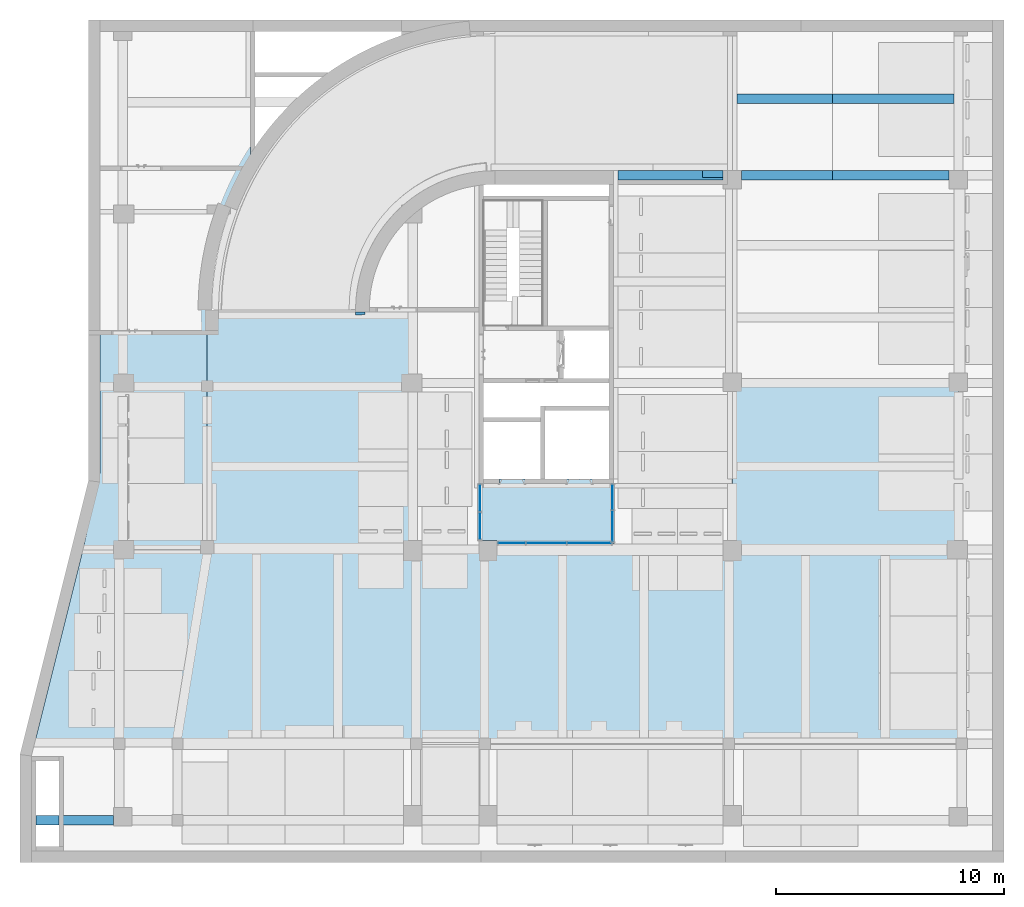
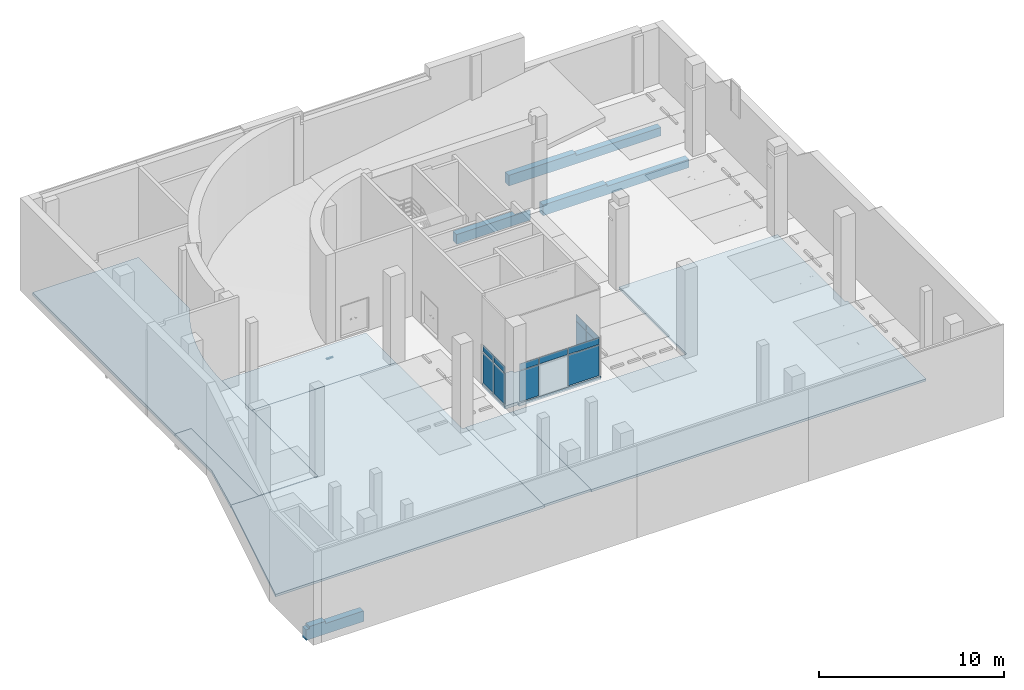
# One storey, part 6 of 29: 13 plates, 7 slabs, 5 beams, 3 elements without a shape of their own.
"""IFC2X3 building model written with IfcOpenShell, lengths in millimetres."""

from ifc_helpers import new_model, entity, si_unit, converted_unit, derived_unit, direction, frame, frame_2d, origin, origin_2d_with_axis, place, context, subcontext, project, spatial, polyline, circle_curve, parameter, trimmed, segment, composite_curve, rectangle, outline, extrude, faceted_brep, source, transform, mapped, material, layer, layer_set, layer_usage, type_object, type_shapes, element, aggregate, save


model = new_model("IFC2X3")

# Units and contexts
model_context = context("Model", 3, precision=0.01, world=origin(), true_north=direction((6.123031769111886e-17, 1.0)))
body_context = subcontext(model_context, "Body", "Model", "MODEL_VIEW")
ifc_project = project(units=[si_unit("LENGTHUNIT", "METRE", prefix="MILLI"), si_unit("AREAUNIT", "SQUARE_METRE"), si_unit("VOLUMEUNIT", "CUBIC_METRE"), converted_unit("PLANEANGLEUNIT", "DEGREE", entity("IfcRatioMeasure", 0.017453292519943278), si_unit("PLANEANGLEUNIT", "RADIAN"), dimensions=[0, 0, 0, 0, 0, 0, 0]), si_unit("MASSUNIT", "GRAM", prefix="KILO"), derived_unit("MASSDENSITYUNIT", [(si_unit("MASSUNIT", "GRAM", prefix="KILO"), 1), (si_unit("LENGTHUNIT", "METRE"), -3)]), derived_unit("MOMENTOFINERTIAUNIT", [(si_unit("LENGTHUNIT", "METRE"), 4)]), si_unit("TIMEUNIT", "SECOND"), si_unit("FREQUENCYUNIT", "HERTZ"), si_unit("THERMODYNAMICTEMPERATUREUNIT", "DEGREE_CELSIUS"), derived_unit("THERMALTRANSMITTANCEUNIT", [(si_unit("MASSUNIT", "GRAM", prefix="KILO"), 1), (si_unit("THERMODYNAMICTEMPERATUREUNIT", "KELVIN"), -1), (si_unit("TIMEUNIT", "SECOND"), -3)]), derived_unit("VOLUMETRICFLOWRATEUNIT", [(si_unit("LENGTHUNIT", "METRE"), 3), (si_unit("TIMEUNIT", "SECOND"), -1)]), derived_unit("MASSFLOWRATEUNIT", [(si_unit("MASSUNIT", "GRAM", prefix="KILO"), 1), (si_unit("TIMEUNIT", "SECOND"), -1)]), derived_unit("ROTATIONALFREQUENCYUNIT", [(si_unit("TIMEUNIT", "SECOND"), -1)]), si_unit("ELECTRICCURRENTUNIT", "AMPERE"), si_unit("ELECTRICVOLTAGEUNIT", "VOLT"), si_unit("POWERUNIT", "WATT"), si_unit("FORCEUNIT", "NEWTON", prefix="KILO"), si_unit("ILLUMINANCEUNIT", "LUX"), si_unit("LUMINOUSFLUXUNIT", "LUMEN"), si_unit("LUMINOUSINTENSITYUNIT", "CANDELA"), derived_unit("USERDEFINED", [(si_unit("MASSUNIT", "GRAM", prefix="KILO"), -1), (si_unit("LENGTHUNIT", "METRE"), -2), (si_unit("TIMEUNIT", "SECOND"), 3), (si_unit("LUMINOUSFLUXUNIT", "LUMEN"), 1)]), derived_unit("SOUNDPOWERUNIT", [(si_unit("MASSUNIT", "GRAM", prefix="KILO"), 1), (si_unit("LENGTHUNIT", "METRE"), 2), (si_unit("TIMEUNIT", "SECOND"), -3)]), derived_unit("SOUNDPRESSUREUNIT", [(si_unit("MASSUNIT", "GRAM", prefix="KILO"), 1), (si_unit("LENGTHUNIT", "METRE"), -1), (si_unit("TIMEUNIT", "SECOND"), -2)]), derived_unit("LINEARVELOCITYUNIT", [(si_unit("LENGTHUNIT", "METRE"), 1), (si_unit("TIMEUNIT", "SECOND"), -1)]), si_unit("PRESSUREUNIT", "PASCAL"), derived_unit("USERDEFINED", [(si_unit("LENGTHUNIT", "METRE"), -2), (si_unit("MASSUNIT", "GRAM", prefix="KILO"), 1), (si_unit("TIMEUNIT", "SECOND"), -2)]), derived_unit("LINEARFORCEUNIT", [(si_unit("MASSUNIT", "GRAM", prefix="KILO"), 1), (si_unit("LENGTHUNIT", "METRE"), 1), (si_unit("TIMEUNIT", "SECOND"), -2), (si_unit("LENGTHUNIT", "METRE"), -1)]), derived_unit("PLANARFORCEUNIT", [(si_unit("MASSUNIT", "GRAM", prefix="KILO"), 1), (si_unit("LENGTHUNIT", "METRE"), 1), (si_unit("TIMEUNIT", "SECOND"), -2), (si_unit("LENGTHUNIT", "METRE"), -2)])], contexts=[model_context])

# Site, building, storey
site_placement = place(None, frame((-14167.972527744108, -657.2125860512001, 0.0)))
site = spatial("IfcSite", under=ifc_project, at=site_placement, Name="Default", CompositionType="ELEMENT")
building_placement = place(site_placement, origin())
building = spatial("IfcBuilding", under=site, at=building_placement, Name="Sample Building", CompositionType="ELEMENT")
storey_placement = place(building_placement, frame((0.0, 0.0, -6100.0)))
storey = spatial("IfcBuildingStorey", under=building, at=storey_placement, Name="지하1층", CompositionType="ELEMENT", Elevation=-6099.999999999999)

# Beams
ifc_material_1 = material(Name="KBIMS-콘크리트")
beam_type_1 = type_object("IfcBeamType", Name="BM111-철근콘크리트구조 보:BM110-철근 콘크리트구조 보_400 x 850_B1-1G3", PredefinedType="NOTDEFINED")
beam_1_placement = place(storey_placement, frame((10467.972491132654, 607.2126041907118, -850.0)))
element("IfcBeam", 1, at=beam_1_placement, inside=storey, type_object=beam_type_1, material=ifc_material_1, Name="BM111-철근콘크리트구조 보:BM110-철근 콘크리트구조 보_400 x 850_B1-1G3", ObjectType="BM111-철근콘크리트구조 보:BM110-철근 콘크리트구조 보_400 x 850_B1-1G3", context=body_context, shape_type="Brep", body=[
    faceted_brep([(1209.9999267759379, 0.0, 850.0), (1209.9999267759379, 400.0, 850.0), (199.99992677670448, 400.0, 850.0), (199.99992677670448, 0.0, 850.0), (3599.9826140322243, 0.0, 0.0), (3599.9826140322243, 0.0, 700.0), (1209.9999267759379, 0.0, 700.0), (199.99992677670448, 0.0, 700.0), (0.0, 0.0, 700.0), (0.0, 0.0, 0.0), (3599.9826140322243, 400.0, 0.0), (0.0, 400.0, 0.0), (3599.9826140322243, 400.0, 700.0), (0.0, 400.0, 700.0), (199.99992677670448, 400.0, 700.0), (1209.9999267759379, 400.0, 700.0)], [[[0, 1, 2, 3]], [[4, 5, 6, 0, 3, 7, 8, 9]], [[10, 4, 9, 11]], [[12, 10, 11, 13, 14, 2, 1, 15]], [[4, 10, 12, 5]], [[7, 14, 13, 8]], [[1, 0, 6, 15]], [[14, 7, 3, 2]], [[6, 5, 12, 15]], [[9, 8, 13, 11]]]),
])
beam_type_2 = type_object("IfcBeamType", Name="BM111-철근콘크리트구조 보:BM110-철근 콘크리트구조 보_400 x 850_B1-1G1", PredefinedType="NOTDEFINED")
beam_2_placement = place(storey_placement, frame((41567.955141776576, 28857.212307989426, -850.0)))
element("IfcBeam", 2, at=beam_2_placement, inside=storey, type_object=beam_type_2, material=ifc_material_1, Name="BM111-철근콘크리트구조 보:BM110-철근 콘크리트구조 보_400 x 850_B1-1G1", ObjectType="BM111-철근콘크리트구조 보:BM110-철근 콘크리트구조 보_400 x 850_B1-1G1", context=body_context, shape_type="Brep", body=[
    faceted_brep([(9100.0, 400.0003090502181, 0.0), (0.0, 400.0003090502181, 0.0), (0.0, 400.0003090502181, 700.0), (3981.6171671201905, 400.0003090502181, 700.0), (3981.6171671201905, 400.0003090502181, 550.0), (9100.0, 400.0003090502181, 550.0), (0.0, 0.0003090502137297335, 0.0), (9100.0, 0.0003090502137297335, 0.0), (9100.0, 0.0003090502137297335, 550.0), (3981.6171671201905, 0.0003090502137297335, 550.0), (3981.6171671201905, 0.0003090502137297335, 700.0), (0.0, 0.0003090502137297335, 700.0), (3981.6171671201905, 0.0, 550.0)], [[[0, 1, 2, 3, 4, 5]], [[6, 1, 0, 7]], [[6, 7, 8, 9, 10, 11]], [[1, 6, 11, 2]], [[7, 0, 5, 8]], [[11, 10, 3, 2]], [[4, 9, 8, 5]], [[12, 4, 3, 10]]]),
])
beam_type_3 = type_object("IfcBeamType", Name="BM111-철근콘크리트구조 보:BM110-철근 콘크리트구조 보_400 x 850_B1-1B1", PredefinedType="BEAM", material=ifc_material_1)
beam_3_placement = place(storey_placement, frame((41367.96296519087, 32207.21261704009, -850.0)))
element("IfcBeam", 3, at=beam_3_placement, inside=storey, type_object=beam_type_3, material=ifc_material_1, Name="BM111-철근콘크리트구조 보:BM110-철근 콘크리트구조 보_400 x 850_B1-1B1", ObjectType="BM111-철근콘크리트구조 보:BM110-철근 콘크리트구조 보_400 x 850_B1-1B1", context=body_context, shape_type="Brep", body=[
    faceted_brep([(9500.0, 400.0, 0.0), (0.0, 400.0, 0.0), (0.0, 400.0, 700.0), (4181.609343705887, 400.0, 700.0), (4181.609343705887, 400.0, 550.0), (9500.0, 400.0, 550.0), (9500.0, 0.0, 0.0), (0.0, 0.0, 0.0), (9500.0, 0.0, 550.0), (4181.609343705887, 0.0, 550.0), (4181.609343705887, 0.0, 700.0), (0.0, 0.0, 700.0)], [[[0, 1, 2, 3, 4, 5]], [[0, 6, 7, 1]], [[7, 6, 8, 9, 10, 11]], [[6, 0, 5, 8]], [[1, 7, 11, 2]], [[4, 9, 8, 5]], [[9, 4, 3, 10]], [[3, 2, 11, 10]]]),
])
beam_type_4 = type_object("IfcBeamType", Name="BM111-철근콘크리트구조 보:BM110-철근 콘크리트구조 보_400 x 850_-1WG1", PredefinedType="NOTDEFINED")
beam_4_placement = place(storey_placement, frame((24667.187425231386, 22935.715085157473, -850.0), z_axis=(0.0, 0.0, -1.0), x_axis=(1.0, 0.0, 0.0)))
element("IfcBeam", 4, at=beam_4_placement, inside=storey, type_object=beam_type_4, material=ifc_material_1, Name="BM111-철근콘크리트구조 보:BM110-철근 콘크리트구조 보_400 x 850_-1WG1", ObjectType="BM111-철근콘크리트구조 보:BM110-철근 콘크리트구조 보_400 x 850_-1WG1", context=body_context, shape_type="Brep", body=[
    faceted_brep([(4.740517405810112, -1.5952722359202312, 0.0), (404.48051888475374, -16.015092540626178, 0.0), (404.48051888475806, -16.015092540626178, -50.0), (4.740517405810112, -1.5952722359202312, -50.0), (402.8225390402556, -68.75068473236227, -50.0), (402.82245155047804, -68.75394841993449, 0.0), (401.6528058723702, -121.49722283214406, 0.0), (401.6528058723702, -121.49722283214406, -50.0), (2.8730561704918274, -61.54348160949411, 0.0), (1.5952722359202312, -121.49722283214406, 0.0), (2.873154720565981, -61.53972464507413, -50.0), (1.5952722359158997, -121.49722283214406, -50.0)], [[[0, 1, 2, 3]], [[4, 2, 1]], [[5, 4, 1]], [[6, 7, 5]], [[4, 5, 7]], [[8, 9, 6, 5, 1, 0]], [[0, 3, 10]], [[0, 10, 8]], [[8, 11, 9]], [[11, 8, 10]], [[3, 2, 4, 7, 11, 10]], [[6, 9, 11, 7]]]),
])
beam_5_placement = place(storey_placement, frame((36167.96296519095, 28857.21261703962, -850.0)))
element("IfcBeam", 5, at=beam_5_placement, inside=storey, type_object=beam_type_4, material=ifc_material_1, Name="BM111-철근콘크리트구조 보:BM110-철근 콘크리트구조 보_400 x 850_-1WG1", ObjectType="BM111-철근콘크리트구조 보:BM110-철근 콘크리트구조 보_400 x 850_-1WG1", context=body_context, shape_type="Brep", body=[
    faceted_brep([(0.0, 0.0, 0.0), (4599.992176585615, 0.0, 0.0), (4599.992176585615, 0.0, 650.0), (0.0, 0.0, 650.0), (0.0, 100.0, 0.0), (3450.5576734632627, 100.0, 0.0), (3450.5576734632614, 400.0, 0.0), (4599.992176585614, 400.0, 0.0), (4599.992176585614, 400.0, 198.0785895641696), (0.0, 100.0, 14.219578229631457), (0.0, 400.0, 14.21957822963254), (3689.3838693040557, 400.0, 650.0), (3689.383869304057, 100.0, 650.0), (4599.992176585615, 100.0, 650.0), (4599.992176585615, 100.0, 198.0785895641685), (0.0, 400.0, 650.0)], [[[0, 1, 2, 3]], [[0, 4, 5, 6, 7, 1]], [[6, 8, 7]], [[9, 10, 11, 12]], [[5, 4, 9, 12, 13, 14]], [[4, 0, 3, 15, 10, 9]], [[1, 7, 8, 14, 13, 2]], [[6, 5, 14, 8]], [[10, 15, 11]], [[3, 2, 13, 12, 11, 15]]]),
])

# Slabs
ifc_layer_1 = layer(ifc_material_1, 150.0)
ifc_layer_set_1 = layer_set([ifc_layer_1], Name="바닥:SL111-철근콘크리트구조 바닥 150mm_S2")
ifc_layer_usage_1 = layer_usage(ifc_layer_set_1, "AXIS3", "POSITIVE", 0.0)
slab_type_1 = type_object("IfcSlabType", Name="바닥:SL111-철근콘크리트구조 바닥 150mm_S2", PredefinedType="FLOOR", material=ifc_layer_set_1)
slab_1_placement = place(storey_placement, origin())
element("IfcSlab", 6, at=slab_1_placement, inside=storey, type_object=slab_type_1, material=ifc_layer_usage_1, Name="바닥:SL111-철근콘크리트구조 바닥 150mm_S2", ObjectType="바닥:SL111-철근콘크리트구조 바닥 150mm_S2", PredefinedType="FLOOR", context=body_context, shape_type="SweptSolid", body=[
    extrude(outline(polyline([(-6277.33652653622, -8162.126724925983), (10494.501746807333, -8162.126724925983), (8369.501765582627, 337.87319997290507), (2922.663473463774, 337.87319997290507), (2922.663473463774, 7512.12676247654), (-6077.32870312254, 7512.12676247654), (-6077.32870312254, 312.12676247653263), (-6277.33652653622, 312.12676247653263), (-6277.33652653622, -8162.126724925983)])), frame((21090.64378801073, 12295.085545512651, 0.0), z_axis=(0.0, 0.0, -1.0), x_axis=(-1.0, 0.0, 0.0)), (0.0, 0.0, 1.0), 150.00000000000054),
])
ifc_layer_usage_2 = layer_usage(ifc_layer_set_1, "AXIS3", "POSITIVE", 0.0)
slab_type_2 = type_object("IfcSlabType", Name="바닥:SL111-철근콘크리트구조 바닥 150mm_S2", PredefinedType="FLOOR", material=ifc_layer_set_1)
slab_2_placement = place(storey_placement, origin())
element("IfcSlab", 7, at=slab_2_placement, inside=storey, type_object=slab_type_2, material=ifc_layer_usage_2, Name="바닥:SL111-철근콘크리트구조 바닥 150mm_S2", ObjectType="바닥:SL111-철근콘크리트구조 바닥 150mm_S2", PredefinedType="FLOOR", context=body_context, shape_type="SweptSolid", body=[
    extrude(outline(polyline([(-8200.000049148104, -13125.00610636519), (299.9998757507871, -13125.00610636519), (299.99987575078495, -2274.9982555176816), (7599.999875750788, -2274.9982555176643), (7599.999875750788, 7625.001744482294), (300.00029764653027, 7625.001744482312), (300.00029764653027, 7775.002617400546), (-8200.000049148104, 7775.002617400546), (-8200.000049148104, -13125.00610636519)])), frame((43442.97857006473, 12357.212432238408, 0.0), z_axis=(0.0, 0.0, -1.0), x_axis=(0.0, 1.0, 0.0)), (0.0, 0.0, 1.0), 150.00000000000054),
])
ifc_layer_2 = layer(ifc_material_1, 150.0)
ifc_layer_set_2 = layer_set([ifc_layer_2], Name="바닥:SL111-철근콘크리트구조 바닥 150mm_S1")
ifc_layer_usage_3 = layer_usage(ifc_layer_set_2, "AXIS3", "POSITIVE", 0.0)
slab_type_3 = type_object("IfcSlabType", Name="바닥:SL111-철근콘크리트구조 바닥 150mm_S1", PredefinedType="FLOOR", material=ifc_layer_set_2)
slab_3_placement = place(storey_placement, origin())
element("IfcSlab", 8, at=slab_3_placement, inside=storey, type_object=slab_type_3, material=ifc_layer_usage_3, Name="바닥:SL111-철근콘크리트구조 바닥 150mm_S1", ObjectType="바닥:SL111-철근콘크리트구조 바닥 150mm_S1", PredefinedType="FLOOR", context=body_context, shape_type="SweptSolid", body=[
    extrude(rectangle(XDim=8449.99993948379, YDim=2949.992149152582, at=frame_2d((0.0, -6.59383658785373e-12), x_axis=(1.0, 0.0))), frame((28842.976389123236, 8432.212338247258, 0.0), z_axis=(0.0, 0.0, -1.0), x_axis=(0.0, 1.0, 0.0)), (0.0, 0.0, 1.0), 150.00000000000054),
])
ifc_layer_3 = layer(ifc_material_1, 200.0)
ifc_layer_set_3 = layer_set([ifc_layer_3], Name="바닥:SL111-철근콘크리트구조 바닥 200mm_S3")
ifc_layer_usage_4 = layer_usage(ifc_layer_set_3, "AXIS3", "POSITIVE", 0.0)
slab_type_4 = type_object("IfcSlabType", Name="바닥:SL111-철근콘크리트구조 바닥 200mm_S3", PredefinedType="FLOOR", material=ifc_layer_set_3)
slab_4_placement = place(storey_placement, origin())
element("IfcSlab", 9, at=slab_4_placement, inside=storey, type_object=slab_type_4, material=ifc_layer_usage_4, Name="바닥:SL111-철근콘크리트구조 바닥 200mm_S3", ObjectType="바닥:SL111-철근콘크리트구조 바닥 200mm_S3", PredefinedType="FLOOR", context=body_context, shape_type="SweptSolid", body=[
    extrude(outline(polyline([(-749.366071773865, -3609.627912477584), (997.4643603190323, -3609.627912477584), (250.63389161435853, -209.99547509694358), (250.63389161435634, 3714.6256500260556), (-749.366071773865, 3714.6256500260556), (-749.366071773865, -3609.627912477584)])), frame((13718.606382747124, 16242.58665796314, 0.0), z_axis=(0.0, 0.0, -1.0), x_axis=(-1.0, 0.0, 0.0)), (0.0, 0.0, 1.0), 200.0),
])
ifc_layer_4 = layer(ifc_material_1, 200.0)
ifc_layer_set_4 = layer_set([ifc_layer_4], Name="바닥:SL111-철근콘크리트구조 바닥 200mm_S6")
ifc_layer_usage_5 = layer_usage(ifc_layer_set_4, "AXIS3", "POSITIVE", 0.0)
slab_type_5 = type_object("IfcSlabType", Name="바닥:SL111-철근콘크리트구조 바닥 200mm_S6", PredefinedType="FLOOR", material=ifc_layer_set_4)
slab_5_placement = place(storey_placement, origin())
element("IfcSlab", 10, at=slab_5_placement, inside=storey, type_object=slab_type_5, material=ifc_layer_usage_5, Name="바닥:SL111-철근콘크리트구조 바닥 200mm_S6", ObjectType="바닥:SL111-철근콘크리트구조 바닥 200mm_S6", PredefinedType="FLOOR", context=body_context, shape_type="SweptSolid", body=[
    extrude(outline(composite_curve([segment(polyline([(-3656.686065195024, -3075.0019467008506), (11743.279251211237, -3075.0019467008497)]), True, "CONTINUOUS"), segment(polyline([(11743.279251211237, -3075.0019467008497), (11743.279251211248, 3524.998053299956)]), True, "CONTINUOUS"), segment(polyline([(11743.279251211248, 3524.998053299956), (6196.871823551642, 3524.9980532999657)]), True, "CONTINUOUS"), segment(trimmed(circle_curve(frame_2d((-456.68606519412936, 14225.005876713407), x_axis=(0.5280601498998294, -0.8492069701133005)), 12600.000000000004), [parameter(328.1255195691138)], [parameter(0.0)], True, "PARAMETER"), False, "CONTINUOUS"), segment(polyline([(-456.6860651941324, 1625.0058767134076), (-10956.686065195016, 1625.0058767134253)]), True, "CONTINUOUS"), segment(polyline([(-10956.686065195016, 1625.0058767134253), (-10956.686065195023, -2075.0019833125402)]), True, "CONTINUOUS"), segment(polyline([(-10956.686065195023, -2075.0019833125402), (-3656.686065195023, -2075.0019833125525)]), True, "CONTINUOUS"), segment(polyline([(-3656.686065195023, -2075.0019833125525), (-3656.686065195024, -3075.0019467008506)]), True, "CONTINUOUS")], self_intersect=False)), frame((16542.97443783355, 23613.898373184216, 0.0), z_axis=(0.0, 0.0, -1.0), x_axis=(0.0, 1.0, 0.0)), (0.0, 0.0, 1.0), 200.0),
])
ifc_layer_5 = layer(ifc_material_1, 150.0)
ifc_layer_set_5 = layer_set([ifc_layer_5], Name="바닥:SL111-철근콘크리트구조 바닥 150mm_S5")
ifc_layer_usage_6 = layer_usage(ifc_layer_set_5, "AXIS3", "POSITIVE", 0.0)
slab_type_6 = type_object("IfcSlabType", Name="바닥:SL111-철근콘크리트구조 바닥 150mm_S5", PredefinedType="FLOOR", material=ifc_layer_set_5)
slab_6_placement = place(storey_placement, origin())
element("IfcSlab", 11, at=slab_6_placement, inside=storey, type_object=slab_type_6, material=ifc_layer_usage_6, Name="바닥:SL111-철근콘크리트구조 바닥 150mm_S5", ObjectType="바닥:SL111-철근콘크리트구조 바닥 150mm_S5", PredefinedType="FLOOR", context=body_context, shape_type="SweptSolid", body=[
    extrude(rectangle(XDim=3250.000000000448, YDim=8999.992176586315, at=frame_2d((-6.480149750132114e-12, -9.094947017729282e-13), x_axis=(1.0, 0.0))), frame((22667.976402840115, 21432.212307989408, 0.0), z_axis=(0.0, 0.0, -1.0), x_axis=(0.0, 1.0, 0.0)), (0.0, 0.0, 1.0), 150.00000000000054),
])
ifc_material_2 = material(Name="SL322-대리석물갈기 바닥 (바탕60mm, 마감20mm)")
ifc_layer_6 = layer(ifc_material_2, 80.0)
ifc_material_3 = material(Name="SL582-무근콘크리트 바닥 100mm")
ifc_layer_7 = layer(ifc_material_3, 99.0)
ifc_material_4 = material(Name="SL789-와이어매쉬 #8 150x150")
ifc_layer_8 = layer(ifc_material_4, 1.0)
ifc_material_5 = material(Name="SL553-보호모르타르 바닥 20mm")
ifc_layer_9 = layer(ifc_material_5, 18.0)
ifc_material_6 = material(Name="SL541-침투성방수 바닥")
ifc_layer_10 = layer(ifc_material_6, 1.0)
ifc_material_7 = material(Name="SL555-쇠흙손마감 바닥 (콘크리트면)")
ifc_layer_11 = layer(ifc_material_7, 1.0)
ifc_layer_set_6 = layer_set([ifc_layer_6, ifc_layer_7, ifc_layer_8, ifc_layer_9, ifc_layer_10, ifc_layer_11], Name="바닥:A1-15-09B-쇠흙손마감, 침투성방수(2차), 시멘트모르타르(보호용), 와이어매쉬(#8 150x150), 무근콘크리트, 대리석(물갈기) (200mm)")
ifc_layer_usage_7 = layer_usage(ifc_layer_set_6, "AXIS3", "POSITIVE", 0.0)
slab_type_7 = type_object("IfcSlabType", Name="바닥:A1-15-09B-쇠흙손마감, 침투성방수(2차), 시멘트모르타르(보호용), 와이어매쉬(#8 150x150), 무근콘크리트, 대리석(물갈기) (200mm)", PredefinedType="FLOOR", material=ifc_layer_set_6)
slab_7_placement = place(storey_placement, origin())
element("IfcSlab", 12, at=slab_7_placement, inside=storey, type_object=slab_type_7, material=ifc_layer_usage_7, Name="바닥:A1-15-09B-쇠흙손마감, 침투성방수(2차), 시멘트모르타르(보호용), 와이어매쉬(#8 150x150), 무근콘크리트, 대리석(물갈기) (200mm)", ObjectType="바닥:A1-15-09B-쇠흙손마감, 침투성방수(2차), 시멘트모르타르(보호용), 와이어매쉬(#8 150x150), 무근콘크리트, 대리석(물갈기) (200mm)", PredefinedType="FLOOR", context=body_context, shape_type="SweptSolid", body=[
    extrude(outline(polyline([(-1821.4288097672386, -2631.622146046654), (678.571468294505, -2631.622146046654), (678.571468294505, -1734.467162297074), (878.5714682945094, -1734.467162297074), (878.5714682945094, -626.930227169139), (678.5714682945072, -602.6877620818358), (678.5714682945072, 1146.4561532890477), (878.5714682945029, 1146.4561532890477), (878.5714682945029, 2393.9930884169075), (678.571468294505, 2393.9930884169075), (678.571468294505, 3270.2245306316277), (-1971.428531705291, 3270.2245306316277), (-1971.428531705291, -1829.7754693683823), (-1821.4288097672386, -1829.7754693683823), (-1821.4288097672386, -2631.622146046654)])), frame((32697.747960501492, 14878.641117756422, 200.0), z_axis=(0.0, 0.0, -1.0), x_axis=(0.0, 1.0, 0.0)), (0.0, 0.0, 1.0), 200.0),
])

# Curtain wall, plates
curtain_wall_type = type_object("IfcCurtainWallType", Name="커튼월:CW112-스테인리스 스틸 커튼월", PredefinedType="NOTDEFINED")
curtain_wall_1_placement = place(storey_placement, frame((0.0, 0.0, 6100.0)))
curtain_wall_1 = element("IfcCurtainWall", 13, at=curtain_wall_1_placement, inside=storey, type_object=curtain_wall_type, Name="커튼월:CW112-스테인리스 스틸 커튼월", ObjectType="커튼월:CW112-스테인리스 스틸 커튼월")
ifc_material_8 = material(Name="KBIMS-로이유리(코팅)")
plate_type_1 = type_object("IfcPlateType", Name="CW300-THK24.Low-e coating glass:CW300-THK24.Low-e coating glass", PredefinedType="CURTAIN_PANEL", material=ifc_material_8)
shared_shape_1 = source(origin(), body_context, "Body", "SweptSolid", [
    extrude(rectangle(XDim=24.000000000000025, YDim=1173.045319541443, at=origin_2d_with_axis()), frame((0.0, 0.0, 0.0), z_axis=(0.0, 0.0, 1.0), x_axis=(0.0, 1.0, 0.0)), (0.0, 0.0, 1.0), 2024.9999999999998),
])
type_shapes(plate_type_1, [shared_shape_1])
plate_1_placement = place(curtain_wall_1_placement, frame((30116.125814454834, 14916.780287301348, -5850.0), z_axis=(0.0, 0.0, 1.0), x_axis=(0.0, -1.0, 0.0)))
plate_1 = element("IfcPlate", 14, at=plate_1_placement, type_object=plate_type_1, material=ifc_material_8, Name="CW300-THK24.Low-e coating glass:CW300-THK24.Low-e coating glass", ObjectType="CW300-THK24.Low-e coating glass:CW300-THK24.Low-e coating glass", context=body_context, shape_type="MappedRepresentation", body=[
    mapped(shared_shape_1, transform((0.0, 0.0, 0.0), scale=1.0)),
])
plate_2_placement = place(curtain_wall_1_placement, frame((30116.12581445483, 13693.734967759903, -5850.0), z_axis=(0.0, 0.0, 1.0), x_axis=(0.0, -1.0, 0.0)))
plate_2 = element("IfcPlate", 15, at=plate_2_placement, type_object=plate_type_1, material=ifc_material_8, Name="CW300-THK24.Low-e coating glass:CW300-THK24.Low-e coating glass", ObjectType="CW300-THK24.Low-e coating glass:CW300-THK24.Low-e coating glass", context=body_context, shape_type="MappedRepresentation", body=[
    mapped(shared_shape_1, transform((0.0, 0.0, 0.0), scale=1.0)),
])

# Curtain wall, plate
curtain_wall_2_placement = place(storey_placement, frame((0.0, 0.0, 6100.0)))
curtain_wall_2 = element("IfcCurtainWall", 16, at=curtain_wall_2_placement, inside=storey, type_object=curtain_wall_type, Name="커튼월:CW112-스테인리스 스틸 커튼월", ObjectType="커튼월:CW112-스테인리스 스틸 커튼월")
plate_type_2 = type_object("IfcPlateType", Name="CW300-THK24.Low-e coating glass:CW300-THK24.Low-e coating glass", PredefinedType="CURTAIN_PANEL", material=ifc_material_8)
shared_shape_2 = source(origin(), body_context, "Body", "SweptSolid", [
    extrude(rectangle(XDim=1175.0000000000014, YDim=24.000000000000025, at=origin_2d_with_axis()), frame((0.0, 0.0, 0.0), z_axis=(0.0, 0.0, 1.0), x_axis=(-1.0, 0.0, 0.0)), (0.0, 0.0, 1.0), 2024.9999999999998),
])
type_shapes(plate_type_2, [shared_shape_2])
plate_3_placement = place(curtain_wall_2_placement, frame((31505.47249113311, 12957.212586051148, -5850.0)))
plate_3 = element("IfcPlate", 17, at=plate_3_placement, type_object=plate_type_2, material=ifc_material_8, Name="CW300-THK24.Low-e coating glass:CW300-THK24.Low-e coating glass", ObjectType="CW300-THK24.Low-e coating glass:CW300-THK24.Low-e coating glass", context=body_context, shape_type="MappedRepresentation", body=[
    mapped(shared_shape_2, transform((0.0, 0.0, 0.0), scale=1.0)),
])

curtain_wall_3_placement = place(storey_placement, frame((0.0, 0.0, 6100.0)))
curtain_wall_3 = element("IfcCurtainWall", 18, at=curtain_wall_3_placement, inside=storey, type_object=curtain_wall_type, Name="커튼월:CW112-스테인리스 스틸 커튼월", ObjectType="커튼월:CW112-스테인리스 스틸 커튼월")
plate_type_3 = type_object("IfcPlateType", Name="CW300-THK24.Low-e coating glass:CW300-THK24.Low-e coating glass", PredefinedType="CURTAIN_PANEL", material=ifc_material_8)
shared_shape_3 = source(origin(), body_context, "Body", "SweptSolid", [
    extrude(rectangle(XDim=1091.6846727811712, YDim=24.000000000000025, at=origin_2d_with_axis()), frame((0.0, 0.0, 0.0), z_axis=(0.0, 0.0, 1.0), x_axis=(-1.0, 0.0, 0.0)), (0.0, 0.0, 1.0), 2024.9999999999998),
])
type_shapes(plate_type_3, [shared_shape_3])
plate_4_placement = place(curtain_wall_3_placement, frame((35917.97249113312, 14957.46061068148, -5850.0), z_axis=(0.0, 0.0, 1.0), x_axis=(0.0, -1.0, 0.0)))
plate_4 = element("IfcPlate", 19, at=plate_4_placement, type_object=plate_type_3, material=ifc_material_8, Name="CW300-THK24.Low-e coating glass:CW300-THK24.Low-e coating glass", ObjectType="CW300-THK24.Low-e coating glass:CW300-THK24.Low-e coating glass", context=body_context, shape_type="MappedRepresentation", body=[
    mapped(shared_shape_3, transform((0.0, 0.0, 0.0), scale=1.0)),
])

# Plate
plate_type_4 = type_object("IfcPlateType", Name="CW300-THK24.Low-e coating glass:CW300-THK24.Low-e coating glass", PredefinedType="CURTAIN_PANEL", material=ifc_material_8)
shared_shape_4 = source(origin(), body_context, "Body", "SweptSolid", [
    extrude(rectangle(XDim=24.000000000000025, YDim=1173.045319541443, at=origin_2d_with_axis()), frame((0.0, 0.0, 0.0), z_axis=(0.0, 0.0, 1.0), x_axis=(0.0, 1.0, 0.0)), (0.0, 0.0, 1.0), 425.00000000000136),
])
type_shapes(plate_type_4, [shared_shape_4])
plate_5_placement = place(curtain_wall_1_placement, frame((30116.125814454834, 14916.780287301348, -3775.0), z_axis=(0.0, 0.0, 1.0), x_axis=(0.0, -1.0, 0.0)))
plate_5 = element("IfcPlate", 20, at=plate_5_placement, type_object=plate_type_4, material=ifc_material_8, Name="CW300-THK24.Low-e coating glass:CW300-THK24.Low-e coating glass", ObjectType="CW300-THK24.Low-e coating glass:CW300-THK24.Low-e coating glass", context=body_context, shape_type="MappedRepresentation", body=[
    mapped(shared_shape_4, transform((0.0, 0.0, 0.0), scale=1.0)),
])

plate_6_placement = place(curtain_wall_1_placement, frame((30116.12581445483, 13693.734967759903, -3775.0), z_axis=(0.0, 0.0, 1.0), x_axis=(0.0, -1.0, 0.0)))
plate_6 = element("IfcPlate", 21, at=plate_6_placement, type_object=plate_type_4, material=ifc_material_8, Name="CW300-THK24.Low-e coating glass:CW300-THK24.Low-e coating glass", ObjectType="CW300-THK24.Low-e coating glass:CW300-THK24.Low-e coating glass", context=body_context, shape_type="MappedRepresentation", body=[
    mapped(shared_shape_4, transform((0.0, 0.0, 0.0), scale=1.0)),
])

aggregate(curtain_wall_1, [plate_1, plate_2, plate_5, plate_6])

plate_type_5 = type_object("IfcPlateType", Name="CW300-THK24.Low-e coating glass:CW300-THK24.Low-e coating glass", PredefinedType="CURTAIN_PANEL", material=ifc_material_8)
shared_shape_5 = source(origin(), body_context, "Body", "SweptSolid", [
    extrude(rectangle(XDim=1924.9999999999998, YDim=24.000000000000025, at=origin_2d_with_axis()), frame((0.0, 0.0, 0.0), z_axis=(0.0, 0.0, 1.0), x_axis=(-1.0, 0.0, 0.0)), (0.0, 0.0, 1.0), 2024.9999999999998),
])
type_shapes(plate_type_5, [shared_shape_5])
plate_7_placement = place(curtain_wall_2_placement, frame((34905.47249113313, 12957.212586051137, -5850.0)))
plate_7 = element("IfcPlate", 22, at=plate_7_placement, type_object=plate_type_5, material=ifc_material_8, Name="CW300-THK24.Low-e coating glass:CW300-THK24.Low-e coating glass", ObjectType="CW300-THK24.Low-e coating glass:CW300-THK24.Low-e coating glass", context=body_context, shape_type="MappedRepresentation", body=[
    mapped(shared_shape_5, transform((0.0, 0.0, 0.0), scale=1.0)),
])

plate_type_6 = type_object("IfcPlateType", Name="CW300-THK24.Low-e coating glass:CW300-THK24.Low-e coating glass", PredefinedType="CURTAIN_PANEL", material=ifc_material_8)
shared_shape_6 = source(origin(), body_context, "Body", "SweptSolid", [
    extrude(rectangle(XDim=1175.0000000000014, YDim=24.000000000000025, at=origin_2d_with_axis()), frame((0.0, 0.0, 0.0), z_axis=(0.0, 0.0, 1.0), x_axis=(-1.0, 0.0, 0.0)), (0.0, 0.0, 1.0), 425.00000000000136),
])
type_shapes(plate_type_6, [shared_shape_6])
plate_8_placement = place(curtain_wall_2_placement, frame((31505.47249113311, 12957.212586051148, -3775.0)))
plate_8 = element("IfcPlate", 23, at=plate_8_placement, type_object=plate_type_6, material=ifc_material_8, Name="CW300-THK24.Low-e coating glass:CW300-THK24.Low-e coating glass", ObjectType="CW300-THK24.Low-e coating glass:CW300-THK24.Low-e coating glass", context=body_context, shape_type="MappedRepresentation", body=[
    mapped(shared_shape_6, transform((0.0, 0.0, 0.0), scale=1.0)),
])

plate_type_7 = type_object("IfcPlateType", Name="CW300-THK24.Low-e coating glass:CW300-THK24.Low-e coating glass", PredefinedType="CURTAIN_PANEL", material=ifc_material_8)
shared_shape_7 = source(origin(), body_context, "Body", "SweptSolid", [
    extrude(rectangle(XDim=1750.0000000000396, YDim=24.000000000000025, at=origin_2d_with_axis()), frame((0.0, 0.0, 0.0), z_axis=(0.0, 0.0, 1.0), x_axis=(-1.0, 0.0, 0.0)), (0.0, 0.0, 1.0), 425.00000000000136),
])
type_shapes(plate_type_7, [shared_shape_7])
plate_9_placement = place(curtain_wall_2_placement, frame((33017.97249113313, 12957.212586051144, -3775.0)))
plate_9 = element("IfcPlate", 24, at=plate_9_placement, type_object=plate_type_7, material=ifc_material_8, Name="CW300-THK24.Low-e coating glass:CW300-THK24.Low-e coating glass", ObjectType="CW300-THK24.Low-e coating glass:CW300-THK24.Low-e coating glass", context=body_context, shape_type="MappedRepresentation", body=[
    mapped(shared_shape_7, transform((0.0, 0.0, 0.0), scale=1.0)),
])

plate_type_8 = type_object("IfcPlateType", Name="CW300-THK24.Low-e coating glass:CW300-THK24.Low-e coating glass", PredefinedType="CURTAIN_PANEL", material=ifc_material_8)
shared_shape_8 = source(origin(), body_context, "Body", "SweptSolid", [
    extrude(rectangle(XDim=1924.9999999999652, YDim=24.000000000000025, at=origin_2d_with_axis()), frame((0.0, 0.0, 0.0), z_axis=(0.0, 0.0, 1.0), x_axis=(-1.0, 0.0, 0.0)), (0.0, 0.0, 1.0), 425.00000000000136),
])
type_shapes(plate_type_8, [shared_shape_8])
plate_10_placement = place(curtain_wall_2_placement, frame((34905.47249113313, 12957.212586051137, -3775.0)))
plate_10 = element("IfcPlate", 25, at=plate_10_placement, type_object=plate_type_8, material=ifc_material_8, Name="CW300-THK24.Low-e coating glass:CW300-THK24.Low-e coating glass", ObjectType="CW300-THK24.Low-e coating glass:CW300-THK24.Low-e coating glass", context=body_context, shape_type="MappedRepresentation", body=[
    mapped(shared_shape_8, transform((0.0, 0.0, 0.0), scale=1.0)),
])

aggregate(curtain_wall_2, [plate_3, plate_7, plate_8, plate_9, plate_10])

plate_type_9 = type_object("IfcPlateType", Name="CW300-THK24.Low-e coating glass:CW300-THK24.Low-e coating glass", PredefinedType="CURTAIN_PANEL", material=ifc_material_8)
shared_shape_9 = source(origin(), body_context, "Body", "SweptSolid", [
    extrude(rectangle(XDim=1354.4056882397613, YDim=24.000000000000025, at=origin_2d_with_axis()), frame((0.0, 0.0, 0.0), z_axis=(0.0, 0.0, 1.0), x_axis=(-1.0, 0.0, 0.0)), (0.0, 0.0, 1.0), 2024.9999999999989),
])
type_shapes(plate_type_9, [shared_shape_9])
plate_11_placement = place(curtain_wall_3_placement, frame((35917.972491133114, 13684.415430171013, -5850.0), z_axis=(0.0, 0.0, 1.0), x_axis=(0.0, -1.0, 0.0)))
plate_11 = element("IfcPlate", 26, at=plate_11_placement, type_object=plate_type_9, material=ifc_material_8, Name="CW300-THK24.Low-e coating glass:CW300-THK24.Low-e coating glass", ObjectType="CW300-THK24.Low-e coating glass:CW300-THK24.Low-e coating glass", context=body_context, shape_type="MappedRepresentation", body=[
    mapped(shared_shape_9, transform((0.0, 0.0, 0.0), scale=1.0)),
])

plate_type_10 = type_object("IfcPlateType", Name="CW300-THK24.Low-e coating glass:CW300-THK24.Low-e coating glass", PredefinedType="CURTAIN_PANEL", material=ifc_material_8)
shared_shape_10 = source(origin(), body_context, "Body", "SweptSolid", [
    extrude(rectangle(XDim=1091.6846727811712, YDim=24.000000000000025, at=origin_2d_with_axis()), frame((0.0, 0.0, 0.0), z_axis=(0.0, 0.0, 1.0), x_axis=(-1.0, 0.0, 0.0)), (0.0, 0.0, 1.0), 425.00000000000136),
])
type_shapes(plate_type_10, [shared_shape_10])
plate_12_placement = place(curtain_wall_3_placement, frame((35917.97249113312, 14957.46061068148, -3775.0), z_axis=(0.0, 0.0, 1.0), x_axis=(0.0, -1.0, 0.0)))
plate_12 = element("IfcPlate", 27, at=plate_12_placement, type_object=plate_type_10, material=ifc_material_8, Name="CW300-THK24.Low-e coating glass:CW300-THK24.Low-e coating glass", ObjectType="CW300-THK24.Low-e coating glass:CW300-THK24.Low-e coating glass", context=body_context, shape_type="MappedRepresentation", body=[
    mapped(shared_shape_10, transform((0.0, 0.0, 0.0), scale=1.0)),
])

plate_type_11 = type_object("IfcPlateType", Name="CW300-THK24.Low-e coating glass:CW300-THK24.Low-e coating glass", PredefinedType="CURTAIN_PANEL", material=ifc_material_8)
shared_shape_11 = source(origin(), body_context, "Body", "SweptSolid", [
    extrude(rectangle(XDim=1354.4056882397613, YDim=24.000000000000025, at=origin_2d_with_axis()), frame((0.0, 0.0, 0.0), z_axis=(0.0, 0.0, 1.0), x_axis=(-1.0, 0.0, 0.0)), (0.0, 0.0, 1.0), 425.00000000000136),
])
type_shapes(plate_type_11, [shared_shape_11])
plate_13_placement = place(curtain_wall_3_placement, frame((35917.972491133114, 13684.415430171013, -3775.0), z_axis=(0.0, 0.0, 1.0), x_axis=(0.0, -1.0, 0.0)))
plate_13 = element("IfcPlate", 28, at=plate_13_placement, type_object=plate_type_11, material=ifc_material_8, Name="CW300-THK24.Low-e coating glass:CW300-THK24.Low-e coating glass", ObjectType="CW300-THK24.Low-e coating glass:CW300-THK24.Low-e coating glass", context=body_context, shape_type="MappedRepresentation", body=[
    mapped(shared_shape_11, transform((0.0, 0.0, 0.0), scale=1.0)),
])

aggregate(curtain_wall_3, [plate_4, plate_11, plate_12, plate_13])

save(model, "model.ifc")
